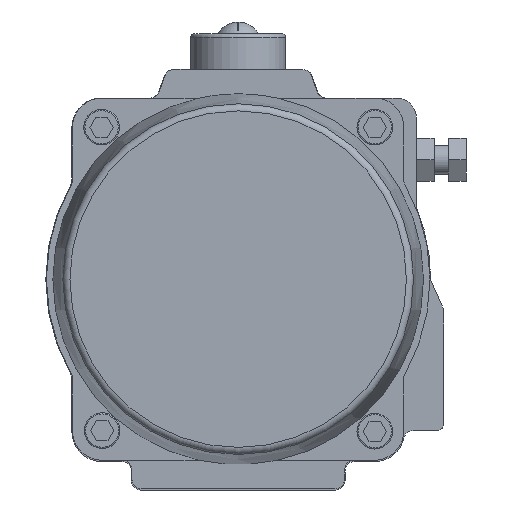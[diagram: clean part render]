
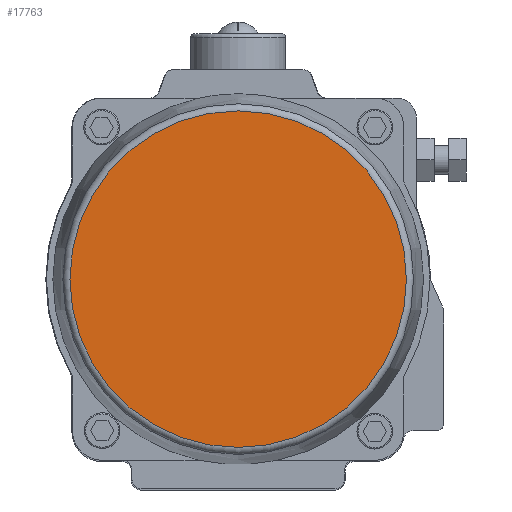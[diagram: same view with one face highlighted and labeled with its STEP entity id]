
A CAD part, front view. The second image highlights one B-rep face of the part: STEP entity #17763.
In plain terms, the highlighted planar face has unit normal (0, -1, 0).
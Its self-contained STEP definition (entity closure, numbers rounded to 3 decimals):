
#17763 = ADVANCED_FACE('',(#17764),#17777,.F.);
#17764 = FACE_BOUND('',#17765,.T.);
#17765 = EDGE_LOOP('',(#17766));
#17766 = ORIENTED_EDGE('',*,*,#17767,.T.);
#17767 = EDGE_CURVE('',#17768,#17768,#17770,.T.);
#17768 = VERTEX_POINT('',#17769);
#17769 = CARTESIAN_POINT('',(3784.913,490.806,
    -74.835));
#17770 = SURFACE_CURVE('',#17771,(#17776,#17792),.PCURVE_S1.);
#17771 = CIRCLE('',#17772,141.647);
#17772 = AXIS2_PLACEMENT_3D('',#17773,#17774,#17775);
#17773 = CARTESIAN_POINT('',(3784.913,490.806,
    -216.482));
#17774 = DIRECTION('',(0.,-1.,0.));
#17775 = DIRECTION('',(1.,0.,0.));
#17776 = PCURVE('',#17777,#17782);
#17777 = PLANE('',#17778);
#17778 = AXIS2_PLACEMENT_3D('',#17779,#17780,#17781);
#17779 = CARTESIAN_POINT('',(3784.913,490.806,
    -74.835));
#17780 = DIRECTION('',(0.,1.,0.));
#17781 = DIRECTION('',(1.,0.,0.));
#17782 = DEFINITIONAL_REPRESENTATION('',(#17783),#17791);
#17783 = ( BOUNDED_CURVE() B_SPLINE_CURVE(2,(#17784,#17785,#17786,#17787
    ,#17788,#17789,#17790),.UNSPECIFIED.,.T.,.F.) 
B_SPLINE_CURVE_WITH_KNOTS((1,2,2,2,2,1),(-2.094,0.,
    2.094,4.189,6.283,8.378),
.UNSPECIFIED.) CURVE() GEOMETRIC_REPRESENTATION_ITEM() 
RATIONAL_B_SPLINE_CURVE((1.,0.5,1.,0.5,1.,0.5,1.)) REPRESENTATION_ITEM(
  '') );
#17784 = CARTESIAN_POINT('',(141.647,141.647));
#17785 = CARTESIAN_POINT('',(141.647,-103.693));
#17786 = CARTESIAN_POINT('',(-70.824,18.977));
#17787 = CARTESIAN_POINT('',(-283.294,141.647));
#17788 = CARTESIAN_POINT('',(-70.824,264.317));
#17789 = CARTESIAN_POINT('',(141.647,386.987));
#17790 = CARTESIAN_POINT('',(141.647,141.647));
#17791 = ( GEOMETRIC_REPRESENTATION_CONTEXT(2) 
PARAMETRIC_REPRESENTATION_CONTEXT() REPRESENTATION_CONTEXT('2D SPACE',''
  ) );
#17792 = PCURVE('',#17793,#17798);
#17793 = TOROIDAL_SURFACE('',#17794,141.647,6.);
#17794 = AXIS2_PLACEMENT_3D('',#17795,#17796,#17797);
#17795 = CARTESIAN_POINT('',(3784.913,496.806,
    -216.482));
#17796 = DIRECTION('',(0.,1.,0.));
#17797 = DIRECTION('',(1.,0.,0.));
#17798 = DEFINITIONAL_REPRESENTATION('',(#17799),#17803);
#17799 = LINE('',#17800,#17801);
#17800 = CARTESIAN_POINT('',(12.566,4.712));
#17801 = VECTOR('',#17802,1.);
#17802 = DIRECTION('',(-1.,0.));
#17803 = ( GEOMETRIC_REPRESENTATION_CONTEXT(2) 
PARAMETRIC_REPRESENTATION_CONTEXT() REPRESENTATION_CONTEXT('2D SPACE',''
  ) );
